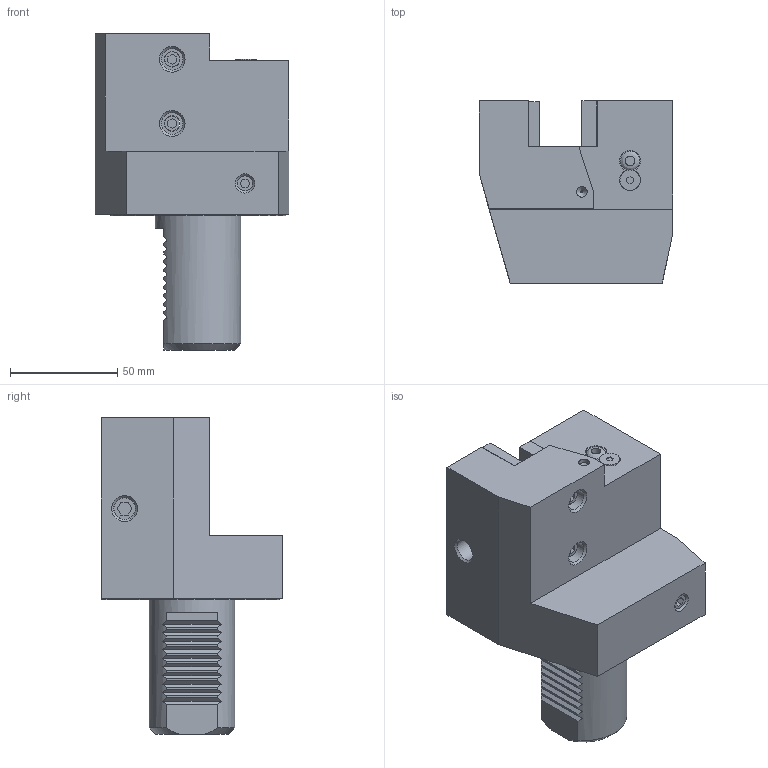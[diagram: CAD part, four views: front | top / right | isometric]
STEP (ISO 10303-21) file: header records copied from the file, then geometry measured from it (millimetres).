
FILE_DESCRIPTION(/* description */ (''),/* implementation_level */ '2;1');
FILE_NAME(/* name */ 'C3-40x25x85.stp',/* time_stamp */ '2025-08-21T11:31:04+03:00',/* author */ ('User'),/* organization */ (''),/* preprocessor_version */ 'ST-DEVELOPER v19.2',/* originating_system */ 'Autodesk Inventor 2024',/* authorisation */ '');
FILE_SCHEMA (('AUTOMOTIVE_DESIGN { 1 0 10303 214 3 1 1 }'));
Length unit declared in the file: millimetre
Products named in the file (1): 11313
Bounding box: 90.5 x 85 x 148 mm (x, y, z)
Volume: 470304.5 mm3; surface area: 64973.9 mm2
Topology: 9 solids, 9 shells, 180 faces, 424 edges, 282 vertices
Faces by surface type: plane 143, cylinder 25, cone 11, bspline 1
Full cylindrical faces by diameter (mm): 4.5 x1, 5 x2, 7 x2, 7.2 x2, 8.5 x2, 9.5 x1, 10 x6, 10.2 x4, 14 x1, 40 x1
Entity records: 5277 total; most frequent: CARTESIAN_POINT 936, DIRECTION 897, ORIENTED_EDGE 848, EDGE_CURVE 424, LINE 305, VECTOR 305, AXIS2_PLACEMENT_3D 296, VERTEX_POINT 282
